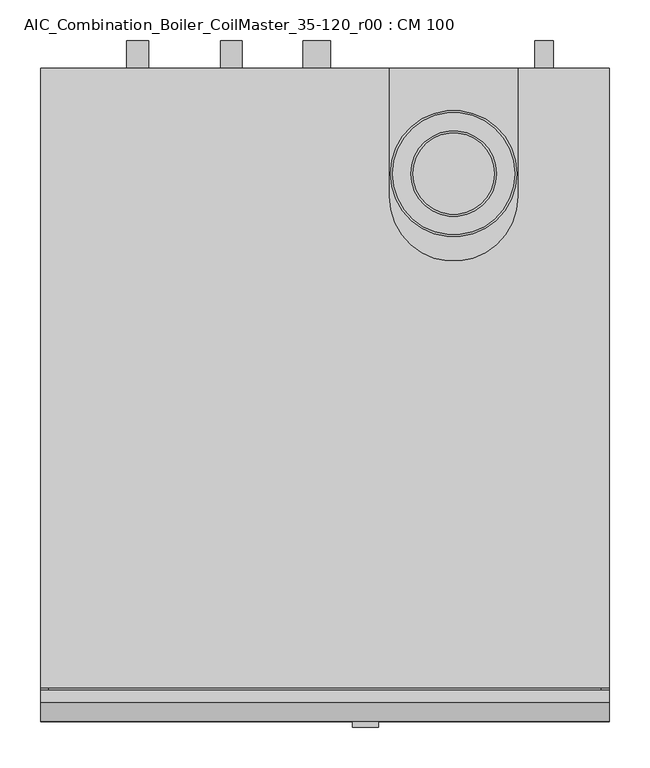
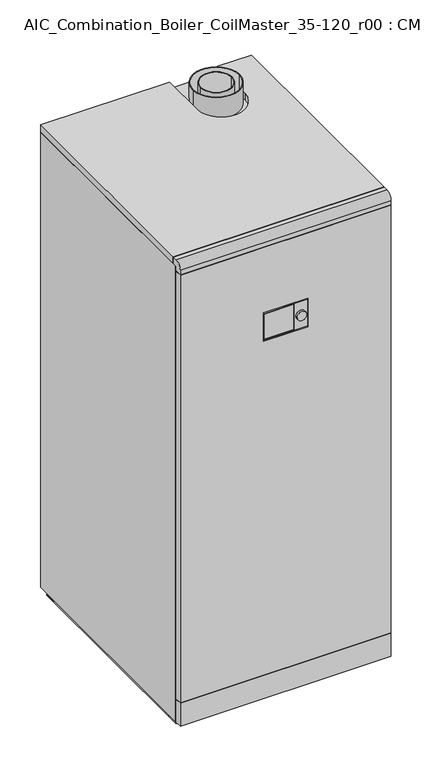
"""IFC4 building model written with IfcOpenShell, lengths in millimetres: unitary equipment geometry, AIC_Combination_Boiler_CoilMaster_35-120_r00 : CM 100."""

from ifc_helpers import new_model, si_unit, point, frame, frame_2d, origin, place, context, project, spatial, polyline, circle_curve, trimmed, segment, composite_curve, outline, extrude, source, transform, mapped, element, save
from ifc_brep_helpers import plane_surface, cylinder_surface, revolved_surface, advanced_brep


def aic_combination_boiler_coilmaster_35_120_r00_cm_100_ebcbf3f2(model_context):
    return source(origin(), model_context, "Body", "SolidModel", [
        advanced_brep(
        [(72.0, -801.0, 1367.0), (-72.0, -801.0, 1367.0), (-72.0, -801.0, 1274.0), (72.0, -801.0, 1274.0), (-70.0, -801.0, 1365.0), (28.0, -801.0, 1365.0), (28.0, -801.0, 1276.0), (-70.0, -801.0, 1276.0), (66.0, -801.0, 1320.5), (34.0, -801.0, 1320.5), (72.0, -791.0, 1367.0), (72.0, -791.0, 1274.0), (-72.0, -791.0, 1274.0), (-72.0, -791.0, 1367.0), (28.0, -799.0, 1365.0), (-70.0, -799.0, 1365.0), (-70.0, -799.0, 1276.0), (28.0, -799.0, 1276.0), (34.0, -808.0, 1320.5), (66.0, -808.0, 1320.5)],
        [
            (0, 1),
            (1, 2),
            (2, 3),
            (3, 0),
            (4, 5),
            (5, 6),
            (6, 7),
            (7, 4),
            (8, 9, circle_curve(frame((50.0, -801.0, 1320.5), z_axis=(0.0, 1.0, 0.0), x_axis=(1.0, 0.0, 0.0)), 16.0)),
            (9, 8, circle_curve(frame((50.0, -801.0, 1320.5), z_axis=(0.0, 1.0, 0.0), x_axis=(1.0, 0.0, 0.0)), 16.0)),
            (10, 11),
            (11, 12),
            (12, 13),
            (13, 10),
            (0, 10),
            (13, 1),
            (12, 2),
            (11, 3),
            (14, 15),
            (15, 16),
            (16, 17),
            (17, 14),
            (14, 5),
            (4, 15),
            (7, 16),
            (6, 17),
            (18, 19, circle_curve(frame((50.0, -808.0, 1320.5), z_axis=(0.0, -1.0, 0.0), x_axis=(1.0, 0.0, 0.0)), 16.0)),
            (19, 18, circle_curve(frame((50.0, -808.0, 1320.5), z_axis=(0.0, -1.0, 0.0), x_axis=(1.0, 0.0, 0.0)), 16.0)),
            (18, 9),
            (8, 19),
        ],
        [
            plane_surface(frame((-72.0, -801.0, 1367.0), z_axis=(0.0, -1.0, 0.0), x_axis=(-1.0, 0.0, 0.0))),
            plane_surface(frame((-72.0, -791.0, 1367.0), z_axis=(0.0, 1.0, 0.0), x_axis=(1.0, 0.0, 0.0))),
            plane_surface(frame((72.0, -801.0, 1367.0), z_axis=(0.0, 0.0, 1.0), x_axis=(0.0, 1.0, 0.0))),
            plane_surface(frame((-72.0, -801.0, 1367.0), z_axis=(-1.0, 0.0, 0.0), x_axis=(0.0, 1.0, 0.0))),
            plane_surface(frame((-72.0, -801.0, 1274.0), z_axis=(0.0, 0.0, -1.0), x_axis=(0.0, 1.0, 0.0))),
            plane_surface(frame((72.0, -801.0, 1274.0), z_axis=(1.0, 0.0, 0.0), x_axis=(0.0, 1.0, 0.0))),
            plane_surface(frame((-70.0, -799.0, 1365.0), z_axis=(0.0, -1.0, 0.0), x_axis=(1.0, 0.0, 0.0))),
            plane_surface(frame((28.0, -801.0, 1365.0), z_axis=(0.0, 0.0, -1.0), x_axis=(0.0, 1.0, 0.0))),
            plane_surface(frame((-70.0, -801.0, 1365.0), z_axis=(1.0, 0.0, 0.0), x_axis=(0.0, 1.0, 0.0))),
            plane_surface(frame((-70.0, -801.0, 1276.0), z_axis=(0.0, 0.0, 1.0), x_axis=(0.0, 1.0, 0.0))),
            plane_surface(frame((28.0, -801.0, 1276.0), z_axis=(-1.0, 0.0, 0.0), x_axis=(0.0, 1.0, 0.0))),
            plane_surface(frame((66.0, -808.0, 1320.5), z_axis=(0.0, -1.0, 0.0), x_axis=(0.0, 0.0, 1.0))),
            cylinder_surface(frame((50.0, -801.0, 1320.5), z_axis=(0.0, -1.0, 0.0), x_axis=(1.0, 0.0, 0.0)), 16.0),
        ],
        [
            (0, [[1, 2, 3, 4], [5, 6, 7, 8], [9, 10]]),
            (1, [[11, 12, 13, 14]]),
            (2, [[-1, 15, -14, 16]]),
            (3, [[-2, -16, -13, 17]]),
            (4, [[-3, -17, -12, 18]]),
            (5, [[-4, -18, -11, -15]]),
            (6, [[19, 20, 21, 22]]),
            (7, [[-19, 23, -5, 24]]),
            (8, [[-20, -24, -8, 25]]),
            (9, [[-21, -25, -7, 26]]),
            (10, [[-22, -26, -6, -23]]),
            (11, [[27, 28]]),
            (12, [[-27, 29, -9, 30]]),
            (12, [[-28, -30, -10, -29]]),
        ],
    ),
        extrude(outline(polyline([(0.0, -35.0), (0.0, 35.0), (102.0, 74.5), (102.0, -74.5), (0.0, -35.0)])), frame((0.0, -760.0, 0.0), z_axis=(0.0, 1.0, 0.0), x_axis=(0.0, 0.0, 1.0)), (0.0, 0.0, 1.0), 742.0),
        extrude(outline(composite_curve([segment(trimmed(circle_curve(frame_2d((139.0, 269.0)), 11.5), [point((139.0, 257.5))], [point((139.0, 280.5))], False, "CARTESIAN"), True, "CONTINUOUS"), segment(trimmed(circle_curve(frame_2d((139.0, 269.0)), 11.5), [point((139.0, 280.5))], [point((139.0, 257.5))], False, "CARTESIAN"), True, "CONTINUOUS")], self_intersect=False)), frame((0.0, 0.0, 0.0), z_axis=(0.0, 1.0, 0.0), x_axis=(0.0, 0.0, 1.0)), (0.0, 0.0, 1.0), 34.0),
        extrude(outline(composite_curve([segment(trimmed(circle_curve(frame_2d((318.0, -10.0)), 16.7), [point((318.0, -26.7))], [point((318.0, 6.7))], False, "CARTESIAN"), True, "CONTINUOUS"), segment(trimmed(circle_curve(frame_2d((318.0, -10.0)), 16.7), [point((318.0, 6.7))], [point((318.0, -26.7))], False, "CARTESIAN"), True, "CONTINUOUS")], self_intersect=False)), frame((0.0, 0.0, 0.0), z_axis=(0.0, 1.0, 0.0), x_axis=(0.0, 0.0, 1.0)), (0.0, 0.0, 1.0), 34.0),
        extrude(outline(composite_curve([segment(trimmed(circle_curve(frame_2d((412.0, -230.0)), 13.35), [point((412.0, -243.35))], [point((412.0, -216.65))], False, "CARTESIAN"), True, "CONTINUOUS"), segment(trimmed(circle_curve(frame_2d((412.0, -230.0)), 13.35), [point((412.0, -216.65))], [point((412.0, -243.35))], False, "CARTESIAN"), True, "CONTINUOUS")], self_intersect=False)), frame((0.0, 0.0, 0.0), z_axis=(0.0, 1.0, 0.0), x_axis=(0.0, 0.0, 1.0)), (0.0, 0.0, 1.0), 34.0),
        extrude(outline(composite_curve([segment(trimmed(circle_curve(frame_2d((485.0, -230.0)), 13.35), [point((485.0, -243.35))], [point((485.0, -216.65))], False, "CARTESIAN"), True, "CONTINUOUS"), segment(trimmed(circle_curve(frame_2d((485.0, -230.0)), 13.35), [point((485.0, -216.65))], [point((485.0, -243.35))], False, "CARTESIAN"), True, "CONTINUOUS")], self_intersect=False)), frame((0.0, 0.0, 0.0), z_axis=(0.0, 1.0, 0.0), x_axis=(0.0, 0.0, 1.0)), (0.0, 0.0, 1.0), 34.0),
        extrude(outline(composite_curve([segment(trimmed(circle_curve(frame_2d((1261.0, -230.0)), 13.35), [point((1261.0, -243.35))], [point((1261.0, -216.65))], False, "CARTESIAN"), True, "CONTINUOUS"), segment(trimmed(circle_curve(frame_2d((1261.0, -230.0)), 13.35), [point((1261.0, -216.65))], [point((1261.0, -243.35))], False, "CARTESIAN"), True, "CONTINUOUS")], self_intersect=False)), frame((0.0, 0.0, 0.0), z_axis=(0.0, 1.0, 0.0), x_axis=(0.0, 0.0, 1.0)), (0.0, 0.0, 1.0), 34.0),
        extrude(outline(composite_curve([segment(trimmed(circle_curve(frame_2d((1356.0, -10.0)), 16.7), [point((1356.0, -26.7))], [point((1356.0, 6.7))], False, "CARTESIAN"), True, "CONTINUOUS"), segment(trimmed(circle_curve(frame_2d((1356.0, -10.0)), 16.7), [point((1356.0, 6.7))], [point((1356.0, -26.7))], False, "CARTESIAN"), True, "CONTINUOUS")], self_intersect=False)), frame((0.0, 0.0, 0.0), z_axis=(0.0, 1.0, 0.0), x_axis=(0.0, 0.0, 1.0)), (0.0, 0.0, 1.0), 34.0),
        extrude(outline(composite_curve([segment(trimmed(circle_curve(frame_2d((1499.0, -115.0)), 13.35), [point((1499.0, -128.35))], [point((1499.0, -101.65))], False, "CARTESIAN"), True, "CONTINUOUS"), segment(trimmed(circle_curve(frame_2d((1499.0, -115.0)), 13.35), [point((1499.0, -101.65))], [point((1499.0, -128.35))], False, "CARTESIAN"), True, "CONTINUOUS")], self_intersect=False)), frame((0.0, 0.0, 0.0), z_axis=(0.0, 1.0, 0.0), x_axis=(0.0, 0.0, 1.0)), (0.0, 0.0, 1.0), 34.0),
        extrude(outline(composite_curve([segment(trimmed(circle_curve(frame_2d((158.0, -129.0)), 52.5), [point((105.5, -129.0))], [point((210.5, -129.0))], False, "CARTESIAN"), True, "CONTINUOUS"), segment(trimmed(circle_curve(frame_2d((158.0, -129.0)), 52.5), [point((210.5, -129.0))], [point((105.5, -129.0))], False, "CARTESIAN"), True, "CONTINUOUS")], self_intersect=False), holes=[composite_curve([segment(trimmed(circle_curve(frame_2d((158.0, -129.0)), 50.0), [point((108.0, -129.0))], [point((208.0, -129.0))], True, "CARTESIAN"), True, "CONTINUOUS"), segment(trimmed(circle_curve(frame_2d((158.0, -129.0)), 50.0), [point((208.0, -129.0))], [point((108.0, -129.0))], True, "CARTESIAN"), True, "CONTINUOUS")], self_intersect=False)]), frame((0.0, 0.0, 1615.5), z_axis=(0.0, 0.0, 1.0), x_axis=(1.0, 0.0, 0.0)), (0.0, 0.0, 1.0), 73.5),
        extrude(outline(composite_curve([segment(trimmed(circle_curve(frame_2d((158.0, -129.0)), 77.5), [point((80.5, -129.0))], [point((235.5, -129.0))], False, "CARTESIAN"), True, "CONTINUOUS"), segment(trimmed(circle_curve(frame_2d((158.0, -129.0)), 77.5), [point((235.5, -129.0))], [point((80.5, -129.0))], False, "CARTESIAN"), True, "CONTINUOUS")], self_intersect=False), holes=[composite_curve([segment(trimmed(circle_curve(frame_2d((158.0, -129.0)), 75.0), [point((83.0, -129.0))], [point((233.0, -129.0))], True, "CARTESIAN"), True, "CONTINUOUS"), segment(trimmed(circle_curve(frame_2d((158.0, -129.0)), 75.0), [point((233.0, -129.0))], [point((83.0, -129.0))], True, "CARTESIAN"), True, "CONTINUOUS")], self_intersect=False)]), frame((0.0, 0.0, 1615.5), z_axis=(0.0, 0.0, 1.0), x_axis=(1.0, 0.0, 0.0)), (0.0, 0.0, 1.0), 73.5),
        advanced_brep(
        [(349.0, -801.0, 20.0), (-349.0, -801.0, 20.0), (-349.0, -777.5, 20.0), (-339.0, -777.5, 20.0), (-339.0, -775.0, 20.0), (339.0, -775.0, 20.0), (339.0, -777.5, 20.0), (349.0, -777.5, 20.0), (-349.0, 0.0, 20.0), (-339.0, 0.0, 20.0), (-339.0, -58.0, 20.0), (-339.0, -720.0, 20.0), (-349.0, -775.0, 20.0), (339.0, 0.0, 20.0), (349.0, 0.0, 20.0), (349.0, -775.0, 20.0), (339.0, -720.0, 20.0), (339.0, -58.0, 20.0), (-339.0, -775.0, 100.0), (339.0, -775.0, 100.0), (-339.0, -18.0, 0.0), (-260.0, -18.0, 0.0), (-260.0, -760.0, 0.0), (-339.0, -760.0, 0.0), (260.0, -18.0, 0.0), (339.0, -18.0, 0.0), (339.0, -760.0, 0.0), (260.0, -760.0, 0.0), (-339.0, -58.0, 102.0), (-260.0, -58.0, 102.0), (-260.0, -58.0, 3.0), (-339.0, -58.0, 3.0), (-339.0, -18.0, 3.0), (-339.0, -760.0, 3.0), (-339.0, -720.0, 3.0), (-260.0, -720.0, 102.0), (-339.0, -720.0, 102.0), (-260.0, -720.0, 3.0), (-260.0, -760.0, 3.0), (-260.0, -18.0, 3.0), (260.0, -58.0, 102.0), (339.0, -58.0, 102.0), (339.0, -58.0, 3.0), (260.0, -58.0, 3.0), (260.0, -720.0, 102.0), (260.0, -18.0, 3.0), (260.0, -760.0, 3.0), (260.0, -720.0, 3.0), (339.0, -720.0, 102.0), (339.0, -720.0, 3.0), (339.0, -760.0, 3.0), (339.0, -18.0, 3.0), (-349.0, -777.5, 1639.0), (349.0, -777.5, 1639.0), (349.0, -763.0, 1639.0), (-349.0, -763.0, 1639.0), (-349.0, 0.0, 1639.0), (-349.0, -760.0, 1639.0), (349.0, -760.0, 1639.0), (349.0, 0.0, 1639.0), (237.5, 0.0, 1639.0), (237.5, -157.0, 1639.0), (78.5, -157.0, 1639.0), (78.5, 0.0, 1639.0), (-339.0, 0.0, 102.0), (339.0, 0.0, 102.0), (339.0, -775.0, 102.0), (339.0, -777.5, 102.0), (349.0, -777.5, 102.0), (349.0, -801.0, 102.0), (-349.0, -801.0, 102.0), (-349.0, -777.5, 102.0), (-339.0, -777.5, 102.0), (-339.0, -775.0, 102.0), (349.0, 0.0, 1615.5), (339.0, 0.0, 1615.5), (339.0, 0.0, 1613.5), (349.0, 0.0, 1613.5), (-349.0, 0.0, 1613.5), (-339.0, 0.0, 1613.5), (-339.0, 0.0, 1615.5), (-349.0, 0.0, 1615.5), (78.5, 0.0, 1615.5), (237.5, 0.0, 1615.5), (-26.7, 0.0, 1442.0), (6.7, 0.0, 1442.0), (-349.0, -801.0, 1599.0), (-349.0, -777.5, 1599.0), (-349.0, -760.0, 1615.5), (-349.0, -801.0, 1615.5), (-349.0, -763.0, 1615.5), (-349.0, -777.5, 1615.5), (-349.0, -777.5, 1601.0), (-349.0, -801.0, 1601.0), (-349.0, -801.0, 100.0), (-349.0, -777.5, 100.0), (-349.0, -775.0, 1613.5), (349.0, -801.0, 100.0), (349.0, -801.0, 1599.0), (-73.5, -801.0, 1370.0), (73.5, -801.0, 1370.0), (73.5, -801.0, 1271.0), (-73.5, -801.0, 1271.0), (349.0, -801.0, 1615.5), (349.0, -801.0, 1601.0), (349.0, -777.5, 1599.0), (349.0, -760.0, 1615.5), (349.0, -777.5, 100.0), (349.0, -777.5, 1601.0), (349.0, -777.5, 1615.5), (349.0, -763.0, 1615.5), (349.0, -775.0, 1613.5), (73.5, -791.0, 1370.0), (-73.5, -791.0, 1370.0), (-73.5, -791.0, 1271.0), (73.5, -791.0, 1271.0), (339.0, -777.5, 100.0), (-339.0, -777.5, 100.0), (-339.0, -775.0, 1613.5), (339.0, -775.0, 1613.5), (-339.0, -777.5, 1599.0), (-339.0, -777.5, 1615.5), (-339.0, -777.5, 1601.0), (339.0, -777.5, 1599.0), (339.0, -777.5, 1615.5), (339.0, -777.5, 1601.0), (339.0, -760.0, 1615.5), (-339.0, -760.0, 1615.5), (-339.0, -763.0, 1615.5), (339.0, -763.0, 1615.5), (-26.7, -58.0, 1442.0), (6.7, -58.0, 1442.0), (237.5, -157.0, 1615.5), (78.5, -157.0, 1615.5)],
        [
            (0, 1),
            (1, 2),
            (2, 3),
            (3, 4),
            (4, 5),
            (5, 6),
            (6, 7),
            (7, 0),
            (8, 9),
            (9, 10),
            (10, 11),
            (11, 4),
            (4, 12),
            (12, 8),
            (13, 14),
            (14, 15),
            (15, 5),
            (5, 16),
            (16, 17),
            (17, 13),
            (4, 18),
            (18, 19),
            (19, 5),
            (20, 21),
            (21, 22),
            (22, 23),
            (23, 20),
            (24, 25),
            (25, 26),
            (26, 27),
            (27, 24),
            (28, 29),
            (29, 30),
            (30, 31),
            (31, 10),
            (10, 28),
            (31, 32),
            (32, 20),
            (23, 33),
            (33, 34),
            (34, 11),
            (35, 36),
            (36, 11),
            (34, 37),
            (37, 35),
            (29, 35),
            (37, 38),
            (38, 22),
            (21, 39),
            (39, 30),
            (40, 41),
            (41, 17),
            (17, 42),
            (42, 43),
            (43, 40),
            (44, 40),
            (43, 45),
            (45, 24),
            (27, 46),
            (46, 47),
            (47, 44),
            (48, 44),
            (47, 49),
            (49, 16),
            (16, 48),
            (49, 50),
            (50, 26),
            (25, 51),
            (51, 42),
            (52, 53),
            (53, 54),
            (54, 55),
            (55, 52),
            (56, 57),
            (57, 58),
            (58, 59),
            (59, 60),
            (60, 61),
            (61, 62, circle_curve(frame((158.0, -157.0, 1639.0), z_axis=(0.0, 0.0, -1.0), x_axis=(1.0, 0.0, 0.0)), 79.5)),
            (62, 63),
            (63, 56),
            (28, 64),
            (64, 65),
            (65, 41),
            (48, 66),
            (66, 67),
            (67, 68),
            (68, 69),
            (69, 70),
            (70, 71),
            (71, 72),
            (72, 73),
            (73, 36),
            (59, 74),
            (74, 75),
            (75, 76),
            (76, 77),
            (77, 14),
            (13, 65),
            (64, 9),
            (8, 78),
            (78, 79),
            (79, 80),
            (80, 81),
            (81, 56),
            (63, 82),
            (82, 83),
            (83, 60),
            (84, 85, circle_curve(frame((-10.0, 0.0, 1442.0), z_axis=(0.0, -1.0, 0.0), x_axis=(1.0, 0.0, 0.0)), 16.7)),
            (85, 84, circle_curve(frame((-10.0, 0.0, 1442.0), z_axis=(0.0, -1.0, 0.0), x_axis=(1.0, 0.0, 0.0)), 16.7)),
            (70, 86),
            (86, 87),
            (87, 71),
            (81, 88),
            (88, 57),
            (89, 52, circle_curve(frame((-349.0, -777.5, 1615.5), z_axis=(-1.0, 0.0, 0.0), x_axis=(0.0, 1.0, 0.0)), 23.5)),
            (55, 90),
            (90, 91),
            (91, 92),
            (92, 93),
            (93, 89),
            (1, 94),
            (94, 95),
            (95, 2),
            (96, 78),
            (12, 96),
            (0, 97),
            (97, 94),
            (69, 98),
            (98, 86),
            (99, 100),
            (100, 101),
            (101, 102),
            (102, 99),
            (103, 89),
            (93, 104),
            (104, 103),
            (68, 105),
            (105, 98),
            (58, 106),
            (106, 74),
            (7, 107),
            (107, 97),
            (53, 103, circle_curve(frame((349.0, -777.5, 1615.5), z_axis=(1.0, 0.0, 0.0), x_axis=(0.0, 1.0, 0.0)), 23.5)),
            (104, 108),
            (108, 109),
            (109, 110),
            (110, 54),
            (77, 111),
            (111, 15),
            (112, 113),
            (113, 114),
            (114, 115),
            (115, 112),
            (112, 100),
            (99, 113),
            (102, 114),
            (101, 115),
            (73, 18),
            (19, 66),
            (33, 38),
            (46, 50),
            (39, 32),
            (51, 45),
            (107, 116),
            (116, 19),
            (18, 117),
            (117, 95),
            (73, 118),
            (118, 96),
            (4, 18),
            (19, 5),
            (111, 119),
            (119, 66),
            (87, 120),
            (120, 72),
            (91, 121),
            (121, 122),
            (122, 92),
            (117, 3),
            (67, 123),
            (123, 105),
            (124, 109),
            (108, 125),
            (125, 124),
            (6, 116),
            (106, 126),
            (126, 75),
            (80, 127),
            (127, 88),
            (90, 128),
            (128, 121),
            (124, 129),
            (129, 110),
            (118, 79),
            (76, 119),
            (120, 122),
            (128, 127),
            (126, 129),
            (125, 123),
            (126, 127),
            (128, 129),
            (122, 125),
            (123, 120),
            (130, 131, circle_curve(frame((-10.0, -58.0, 1442.0), z_axis=(0.0, 1.0, 0.0), x_axis=(1.0, 0.0, 0.0)), 16.7)),
            (131, 130, circle_curve(frame((-10.0, -58.0, 1442.0), z_axis=(0.0, 1.0, 0.0), x_axis=(1.0, 0.0, 0.0)), 16.7)),
            (131, 85),
            (84, 130),
            (132, 83),
            (82, 133),
            (133, 132, circle_curve(frame((158.0, -157.0, 1615.5), z_axis=(0.0, 0.0, 1.0), x_axis=(1.0, 0.0, 0.0)), 79.5)),
            (132, 61),
            (62, 133),
        ],
        [
            plane_surface(frame((-349.0, -775.0, 20.0), z_axis=(0.0, 0.0, -1.0), x_axis=(1.0, 0.0, 0.0))),
            plane_surface(frame((349.0, -775.0, 102.0), z_axis=(0.0, 1.0, 0.0), x_axis=(0.0, 0.0, -1.0))),
            plane_surface(frame((-339.0, -58.0, 0.0), z_axis=(0.0, 0.0, -1.0), x_axis=(1.0, 0.0, 0.0))),
            plane_surface(frame((-260.0, -58.0, 102.0), z_axis=(0.0, 1.0, 0.0), x_axis=(0.0, 0.0, -1.0))),
            plane_surface(frame((-339.0, -58.0, 102.0), z_axis=(-1.0, 0.0, 0.0), x_axis=(0.0, 0.0, -1.0))),
            plane_surface(frame((-339.0, -720.0, 102.0), z_axis=(0.0, -1.0, 0.0), x_axis=(0.0, 0.0, -1.0))),
            plane_surface(frame((-260.0, -720.0, 102.0), z_axis=(1.0, 0.0, 0.0), x_axis=(0.0, 0.0, -1.0))),
            plane_surface(frame((339.0, -58.0, 102.0), z_axis=(0.0, 1.0, 0.0), x_axis=(0.0, 0.0, -1.0))),
            plane_surface(frame((260.0, -58.0, 102.0), z_axis=(-1.0, 0.0, 0.0), x_axis=(0.0, 0.0, -1.0))),
            plane_surface(frame((260.0, -720.0, 102.0), z_axis=(0.0, -1.0, 0.0), x_axis=(0.0, 0.0, -1.0))),
            plane_surface(frame((339.0, -720.0, 102.0), z_axis=(1.0, 0.0, 0.0), x_axis=(0.0, 0.0, -1.0))),
            plane_surface(frame((-349.0, 0.0, 1639.0), z_axis=(0.0, 0.0, 1.0), x_axis=(-1.0, 0.0, 0.0))),
            plane_surface(frame((-349.0, 0.0, 102.0), z_axis=(0.0, 0.0, -1.0), x_axis=(1.0, 0.0, 0.0))),
            plane_surface(frame((349.0, 0.0, 1639.0), z_axis=(0.0, 1.0, 0.0), x_axis=(0.0, 0.0, -1.0))),
            plane_surface(frame((-349.0, 0.0, 1639.0), z_axis=(-1.0, 0.0, 0.0), x_axis=(0.0, 0.0, -1.0))),
            plane_surface(frame((-349.0, -801.0, 1639.0), z_axis=(0.0, -1.0, 0.0), x_axis=(0.0, 0.0, -1.0))),
            plane_surface(frame((349.0, -801.0, 1639.0), z_axis=(1.0, 0.0, 0.0), x_axis=(0.0, 0.0, -1.0))),
            plane_surface(frame((-73.5, -791.0, 1370.0), z_axis=(0.0, -1.0, 0.0), x_axis=(1.0, 0.0, 0.0))),
            plane_surface(frame((73.5, -801.0, 1370.0), z_axis=(0.0, 0.0, -1.0), x_axis=(0.0, 1.0, 0.0))),
            plane_surface(frame((-73.5, -801.0, 1370.0), z_axis=(1.0, 0.0, 0.0), x_axis=(0.0, 1.0, 0.0))),
            plane_surface(frame((-73.5, -801.0, 1271.0), z_axis=(0.0, 0.0, 1.0), x_axis=(0.0, 1.0, 0.0))),
            plane_surface(frame((73.5, -801.0, 1271.0), z_axis=(-1.0, 0.0, 0.0), x_axis=(0.0, 1.0, 0.0))),
            plane_surface(frame((-339.0, -775.0, 102.0), z_axis=(1.0, 0.0, 0.0), x_axis=(0.0, 0.0, -1.0))),
            plane_surface(frame((339.0, 0.0, 102.0), z_axis=(-1.0, 0.0, 0.0), x_axis=(0.0, 0.0, -1.0))),
            plane_surface(frame((-339.0, -18.0, 3.0), z_axis=(0.0, 0.0, 1.0), x_axis=(-1.0, 0.0, 0.0))),
            plane_surface(frame((-260.0, -18.0, 3.0), z_axis=(0.0, 1.0, 0.0), x_axis=(0.0, 0.0, -1.0))),
            plane_surface(frame((339.0, -18.0, 3.0), z_axis=(0.0, 1.0, 0.0), x_axis=(0.0, 0.0, -1.0))),
            plane_surface(frame((260.0, -760.0, 3.0), z_axis=(0.0, -1.0, 0.0), x_axis=(0.0, 0.0, -1.0))),
            plane_surface(frame((-339.0, -760.0, 3.0), z_axis=(0.0, -1.0, 0.0), x_axis=(0.0, 0.0, -1.0))),
            cylinder_surface(frame((-349.0, -777.5, 1615.5), z_axis=(-1.0, 0.0, 0.0), x_axis=(0.0, 1.0, 0.0)), 23.5),
            plane_surface(frame((349.0, -801.0, 100.0), z_axis=(0.0, 0.0, 1.0), x_axis=(0.0, -1.0, 0.0))),
            plane_surface(frame((349.0, -775.0, 102.0), z_axis=(0.0, -1.0, 0.0), x_axis=(0.0, 0.0, -1.0))),
            plane_surface(frame((-349.0, -777.5, 1615.5), z_axis=(0.0, 1.0, 0.0), x_axis=(0.0, 0.0, -1.0))),
            plane_surface(frame((339.0, -777.5, 1615.5), z_axis=(0.0, 1.0, 0.0), x_axis=(0.0, 0.0, -1.0))),
            plane_surface(frame((-349.0, 0.0, 1615.5), z_axis=(0.0, 0.0, -1.0), x_axis=(-1.0, 0.0, 0.0))),
            plane_surface(frame((-349.0, 0.0, 1613.5), z_axis=(0.0, 0.0, 1.0), x_axis=(1.0, 0.0, 0.0))),
            plane_surface(frame((-339.0, -775.0, 1615.5), z_axis=(-1.0, 0.0, 0.0), x_axis=(0.0, 0.0, -1.0))),
            plane_surface(frame((339.0, 0.0, 1615.5), z_axis=(1.0, 0.0, 0.0), x_axis=(0.0, 0.0, -1.0))),
            plane_surface(frame((-349.0, -760.0, 1615.5), z_axis=(0.0, 0.0, 1.0), x_axis=(1.0, 0.0, 0.0))),
            plane_surface(frame((349.0, -760.0, 1639.0), z_axis=(0.0, -1.0, 0.0), x_axis=(0.0, 0.0, -1.0))),
            plane_surface(frame((-349.0, -763.0, 1639.0), z_axis=(0.0, 1.0, 0.0), x_axis=(0.0, 0.0, -1.0))),
            plane_surface(frame((-349.0, -777.5, 1601.0), z_axis=(0.0, 0.0, -1.0), x_axis=(-1.0, 0.0, 0.0))),
            plane_surface(frame((-349.0, -777.5, 1599.0), z_axis=(0.0, 0.0, 1.0), x_axis=(1.0, 0.0, 0.0))),
            plane_surface(frame((349.0, -777.5, 1601.0), z_axis=(0.0, -1.0, 0.0), x_axis=(0.0, 0.0, -1.0))),
            plane_surface(frame((6.7, -58.0, 1442.0), z_axis=(0.0, 1.0, 0.0), x_axis=(0.0, 0.0, 1.0))),
            revolved_surface(polyline([(6.699999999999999, -58.0, 1442.0), (6.699999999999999, 0.0, 1442.0)]), (-10.0, 0.0, 1442.0), (0.0, -1.0, 0.0)),
            plane_surface(frame((237.5, 0.0, 1615.5), z_axis=(0.0, 0.0, 1.0), x_axis=(0.0, -1.0, 0.0))),
            plane_surface(frame((237.5, -157.0, 1639.0), z_axis=(-1.0, 0.0, 0.0), x_axis=(0.0, 0.0, -1.0))),
            plane_surface(frame((78.5, 0.0, 1639.0), z_axis=(1.0, 0.0, 0.0), x_axis=(0.0, 0.0, -1.0))),
            revolved_surface(polyline([(237.5, -157.0, 1639.0), (237.5, -157.0, 1615.5)]), (158.0, -157.0, 1615.5), (0.0, 0.0, 1.0)),
        ],
        [
            (0, [[1, 2, 3, 4, 5, 6, 7, 8]]),
            (0, [[9, 10, 11, 12, 13, 14]]),
            (0, [[15, 16, 17, 18, 19, 20]]),
            (1, [[-5, 21, 22, 23]]),
            (2, [[24, 25, 26, 27]]),
            (2, [[28, 29, 30, 31]]),
            (3, [[32, 33, 34, 35, 36]]),
            (4, [[-11, -35, 37, 38, -27, 39, 40, 41]]),
            (5, [[42, 43, -41, 44, 45]]),
            (6, [[46, -45, 47, 48, -25, 49, 50, -33]]),
            (7, [[51, 52, 53, 54, 55]]),
            (8, [[56, -55, 57, 58, -31, 59, 60, 61]]),
            (9, [[62, -61, 63, 64, 65]]),
            (10, [[-19, -64, 66, 67, -29, 68, 69, -53]]),
            (11, [[70, 71, 72, 73]]),
            (11, [[74, 75, 76, 77, 78, 79, 80, 81]]),
            (12, [[-32, 82, 83, 84, -51, -56, -62, 85, 86, 87, 88, 89, 90, 91, 92, 93, -42, -46]]),
            (13, [[94, 95, 96, 97, 98, -15, 99, -83, 100, -9, 101, 102, 103, 104, 105, -81, 106, 107, 108, -77], [109, 110]]),
            (14, [[-90, 111, 112, 113]]),
            (14, [[-105, 114, 115, -74]]),
            (14, [[116, -73, 117, 118, 119, 120, 121]]),
            (14, [[122, 123, 124, -2]]),
            (14, [[125, -101, -14, 126]]),
            (15, [[-1, 127, 128, -122]]),
            (15, [[-89, 129, 130, -111], [131, 132, 133, 134]]),
            (15, [[135, -121, 136, 137]]),
            (16, [[-88, 138, 139, -129]]),
            (16, [[-94, -76, 140, 141]]),
            (16, [[-127, -8, 142, 143]]),
            (16, [[144, -137, 145, 146, 147, 148, -71]]),
            (16, [[149, 150, -16, -98]]),
            (17, [[151, 152, 153, 154]]),
            (18, [[-151, 155, -131, 156]]),
            (19, [[-152, -156, -134, 157]]),
            (20, [[-153, -157, -133, 158]]),
            (21, [[-154, -158, -132, -155]]),
            (22, [[-12, -43, -93, 159, -21]]),
            (22, [[-100, -82, -36, -10]]),
            (23, [[-18, -23, 160, -85, -65]]),
            (23, [[-99, -20, -52, -84]]),
            (24, [[-40, 161, -47, -44]]),
            (24, [[-60, 162, -66, -63]]),
            (24, [[163, -37, -34, -50]]),
            (24, [[164, -57, -54, -69]]),
            (25, [[-163, -49, -24, -38]]),
            (26, [[-164, -68, -28, -58]]),
            (27, [[-162, -59, -30, -67]]),
            (28, [[-161, -39, -26, -48]]),
            (29, [[-70, -116, -135, -144]]),
            (30, [[-128, -143, 165, 166, -22, 167, 168, -123]]),
            (31, [[-159, 169, 170, -126, -13, 171]]),
            (31, [[-160, 172, -17, -150, 173, 174]]),
            (32, [[-91, -113, 175, 176]]),
            (32, [[177, 178, 179, -119]]),
            (32, [[180, -3, -124, -168]]),
            (33, [[-87, 181, 182, -138]]),
            (33, [[183, -146, 184, 185]]),
            (33, [[186, -165, -142, -7]]),
            (34, [[-95, -141, 187, 188]]),
            (34, [[-104, 189, 190, -114]]),
            (34, [[-177, -118, 191, 192]]),
            (34, [[-183, 193, 194, -147]]),
            (35, [[195, -102, -125, -170]]),
            (35, [[196, -173, -149, -97]]),
            (36, [[-171, -4, -180, -167]]),
            (36, [[-195, -169, -92, -176, 197, -178, -192, 198, -189, -103]]),
            (37, [[-172, -166, -186, -6]]),
            (37, [[-196, -96, -188, 199, -193, -185, 200, -181, -86, -174]]),
            (38, [[201, -198, 202, -199]]),
            (39, [[-201, -187, -140, -75, -115, -190]]),
            (40, [[-202, -191, -117, -72, -148, -194]]),
            (41, [[203, -184, -145, -136, -120, -179]]),
            (42, [[204, -175, -112, -130, -139, -182]]),
            (43, [[-203, -197, -204, -200]]),
            (44, [[205, 206]]),
            (45, [[-206, 207, -109, 208]]),
            (45, [[-205, -208, -110, -207]]),
            (46, [[209, -107, 210, 211]]),
            (47, [[-209, 212, -78, -108]]),
            (48, [[-210, -106, -80, 213]]),
            (49, [[-211, -213, -79, -212]]),
        ],
    ),
    ])


if __name__ == "__main__":
    model = new_model("IFC4")
    model_context = context("Model", 3, world=origin())
    ifc_project = project(units=[si_unit("LENGTHUNIT", "METRE", prefix="MILLI")], contexts=[model_context])
    site = spatial("IfcSite", under=ifc_project)
    building = spatial("IfcBuilding", under=site)
    placement = place(None, origin())
    aic_combination_boiler_coilmaster_35_120_r00_cm_100_shape = aic_combination_boiler_coilmaster_35_120_r00_cm_100_ebcbf3f2(model_context)
    element("IfcUnitaryEquipment", 1, ObjectType="AIC_Combination_Boiler_CoilMaster_35-120_r00 : CM 100", at=placement, inside=building, context=model_context, shape_type="MappedRepresentation", body=[
        mapped(aic_combination_boiler_coilmaster_35_120_r00_cm_100_shape, transform((0.0, 0.0, 0.0), x_axis=(1.0, 0.0, 0.0), y_axis=(0.0, 1.0, 0.0), z_axis=(0.0, 0.0, 1.0))),
    ])
    save(model, "model.ifc")
